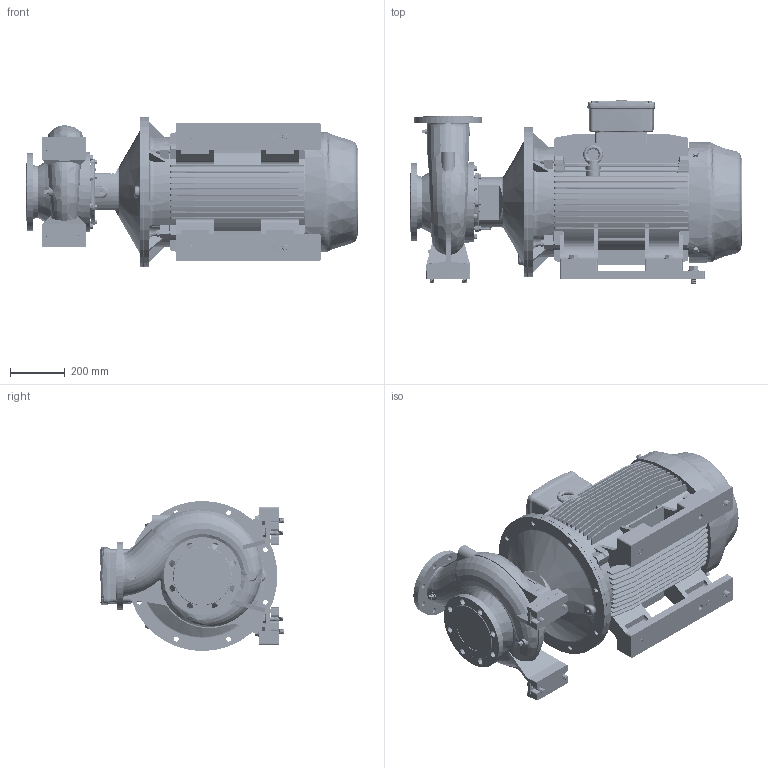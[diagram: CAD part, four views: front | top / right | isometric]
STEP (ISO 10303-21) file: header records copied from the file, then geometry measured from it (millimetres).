
FILE_DESCRIPTION (( 'STEP AP214' ), '1' );
FILE_NAME ('GSD2 125-200_55 & 75_(250SM)_W21.STEP', '2026-07-07T04:44:51', ( '' ), ( '' ), 'SwSTEP 2.0', 'SolidWorks 2024', '' );
FILE_SCHEMA (( 'AUTOMOTIVE_DESIGN' ));
Length unit declared in the file: millimetre
Products named in the file (12): Parametric Flat Washer_M16; Parametric bolt_SFT-A365B; Parametric bolt_SFT-A417B; 250S_M2P IE3_W21T_B35; Parametric bolt and washer_SFT-A365B; 125-200-250S_M_ﾃﾞﾌｫﾙﾄ; Parametric bolt and washer_SFT-A417B; A407B Bolt_407; GSD2  125-200_55 & 75_(250SM)_W21; 100x30 - CGSDA-5291; Parametric Flat Washer_M20; CGS11-5321_2_3_4_5_CGS11-5324
Assembly tree (22 placements, depth 3):
  GSD2  125-200_55 & 75_(250SM)_W21
    125-200-250S_M_ﾃﾞﾌｫﾙﾄ
    250S_M2P IE3_W21T_B35
    CGS11-5321_2_3_4_5_CGS11-5324  x2
    100x30 - CGSDA-5291  x2
    A407B Bolt_407  x2
    Parametric Flat Washer_M20  x2
    Parametric bolt and washer_SFT-A365B  x4
      Parametric bolt_SFT-A365B
      Parametric Flat Washer_M16
    Parametric bolt and washer_SFT-A417B  x4
      Parametric bolt_SFT-A417B
      Parametric Flat Washer_M20
Bounding box: 1215.5 x 670 x 550 mm (x, y, z)
Volume: 151785350.5 mm3; surface area: 5636335.6 mm2
Topology: 27 solids, 32 shells, 4134 faces, 10948 edges, 7010 vertices
Faces by surface type: plane 1608, cylinder 1461, cone 467, bspline 300, torus 282, sphere 16
Entity records: 173858 total; most frequent: CARTESIAN_POINT 89337, ORIENTED_EDGE 18630, DIRECTION 16661, EDGE_CURVE 9315, AXIS2_PLACEMENT_3D 6103, VERTEX_POINT 5949, LINE 4455, VECTOR 4455
